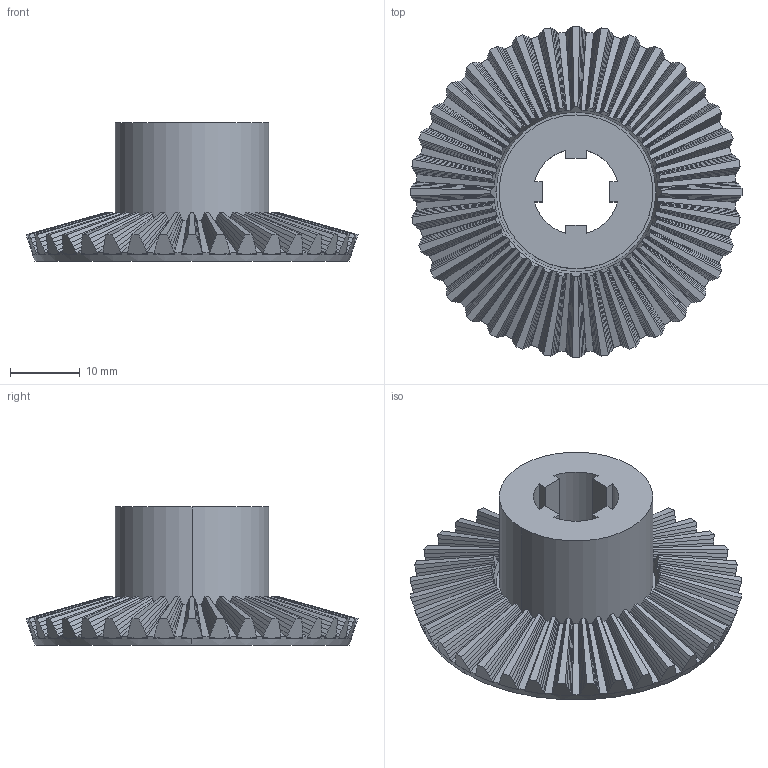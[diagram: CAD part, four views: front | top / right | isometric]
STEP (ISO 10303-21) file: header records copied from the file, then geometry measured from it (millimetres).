
FILE_DESCRIPTION (( 'STEP AP203' ), '1' );
FILE_NAME ('Large Bevel.STEP', '2026-01-17T21:10:56', ( '' ), ( '' ), 'SwSTEP 2.0', 'SolidWorks 2026', '' );
FILE_SCHEMA (( 'CONFIG_CONTROL_DESIGN' ));
Length unit declared in the file: millimetre
Products named in the file (1): Large Bevel
Bounding box: 47.49 x 47.49 x 19.74 mm (x, y, z)
Volume: 11018.5 mm3; surface area: 6829.5 mm2
Topology: 1 solids, 1 shells, 601 faces, 1718 edges, 1120 vertices
Faces by surface type: plane 555, cone 40, cylinder 6
Entity records: 19467 total; most frequent: CARTESIAN_POINT 4304, ORIENTED_EDGE 3436, DIRECTION 2722, EDGE_CURVE 1718, VECTOR 1342, LINE 1342, VERTEX_POINT 1120, AXIS2_PLACEMENT_3D 690
